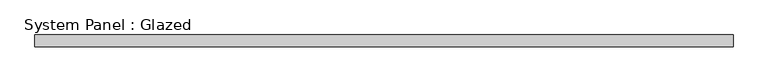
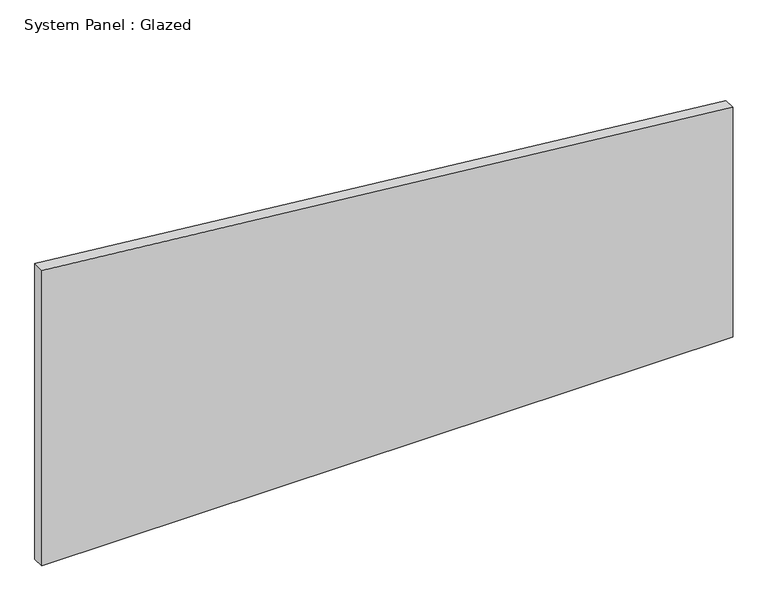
"""IFC4 building model written with IfcOpenShell, lengths in millimetres: plate geometry, System Panel : Glazed."""

from ifc_helpers import new_model, si_unit, frame, origin, place, context, project, spatial, polyline, outline, extrude, source, transform, mapped, element, save


def system_panel_glazed_a6811d11(model_context):
    return source(origin(), model_context, "Body", "SweptSolid", [
        extrude(outline(polyline([(0.0, -735.8695652), (0.0, 735.8695652), (517.5755862, 735.8695652), (665.558565, -735.8695652), (0.0, -735.8695652)])), frame((0.0, 24.5, 0.0), z_axis=(0.0, 1.0, 0.0), x_axis=(0.0, 0.0, 1.0)), (0.0, 0.0, 1.0), 25.0),
    ])


if __name__ == "__main__":
    model = new_model("IFC4")
    model_context = context("Model", 3, world=origin())
    ifc_project = project(units=[si_unit("LENGTHUNIT", "METRE", prefix="MILLI")], contexts=[model_context])
    site = spatial("IfcSite", under=ifc_project)
    building = spatial("IfcBuilding", under=site)
    placement = place(None, origin())
    system_panel_glazed_shape = system_panel_glazed_a6811d11(model_context)
    element("IfcPlate", 1, ObjectType="System Panel : Glazed", at=placement, inside=building, context=model_context, shape_type="MappedRepresentation", body=[
        mapped(system_panel_glazed_shape, transform((0.0, 0.0, 0.0), x_axis=(1.0, 0.0, 0.0), y_axis=(0.0, 1.0, 0.0), z_axis=(0.0, 0.0, 1.0))),
    ])
    save(model, "model.ifc")
